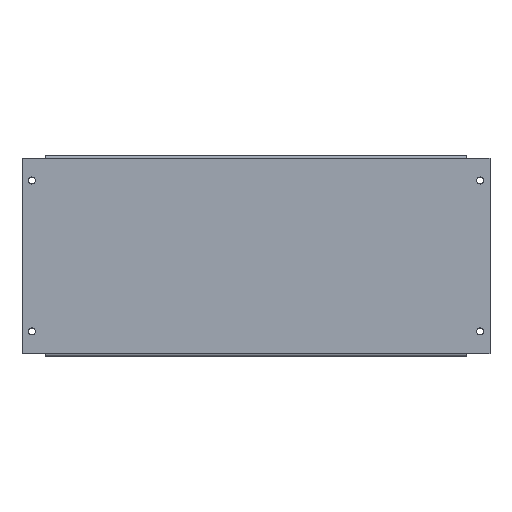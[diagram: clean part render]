
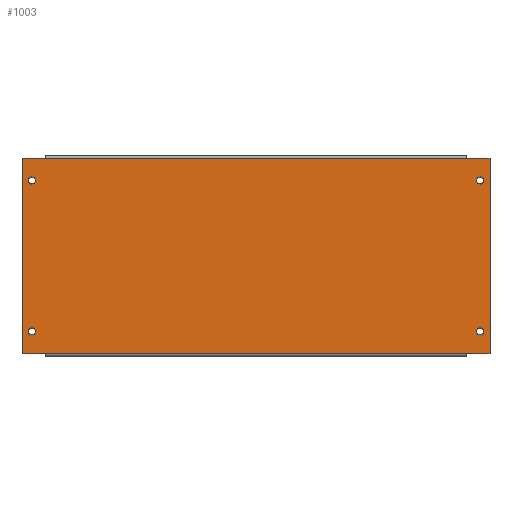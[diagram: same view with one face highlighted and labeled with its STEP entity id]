
A CAD part, top view. The second image highlights one B-rep face of the part: STEP entity #1003.
In plain terms, the highlighted planar face has unit normal (0, 0, 1).
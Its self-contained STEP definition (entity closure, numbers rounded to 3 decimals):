
#78 = DIRECTION ( 'NONE',  ( 1., 0., 0. ) ) ;
#79 = DIRECTION ( 'NONE',  ( 0., 0., 1. ) ) ;
#83 = CARTESIAN_POINT ( 'NONE',  ( -222.75, 75., 1.2 ) ) ;
#103 = DIRECTION ( 'NONE',  ( -1., 0., 0. ) ) ;
#104 = CARTESIAN_POINT ( 'NONE',  ( -232.5, 97.1, 1.2 ) ) ;
#105 = LINE ( 'NONE', #104, #455 ) ;
#107 = DIRECTION ( 'NONE',  ( 0., -1., 0. ) ) ;
#108 = CARTESIAN_POINT ( 'NONE',  ( -232.5, 99.5, 1.2 ) ) ;
#109 = LINE ( 'NONE', #108, #456 ) ;
#135 = DIRECTION ( 'NONE',  ( 1., 0., 0. ) ) ;
#136 = DIRECTION ( 'NONE',  ( 0., 0., -1. ) ) ;
#146 = CARTESIAN_POINT ( 'NONE',  ( -222.75, -75., 1.2 ) ) ;
#160 = DIRECTION ( 'NONE',  ( 1., 0., 0. ) ) ;
#161 = DIRECTION ( 'NONE',  ( 0., 0., 1. ) ) ;
#162 = CARTESIAN_POINT ( 'NONE',  ( -232.5, -99.5, 1.2 ) ) ;
#163 = PLANE ( 'NONE',  #804 ) ;
#187 = DIRECTION ( 'NONE',  ( -1., 0., 0. ) ) ;
#188 = CARTESIAN_POINT ( 'NONE',  ( -232.5, 97.1, 1.2 ) ) ;
#189 = LINE ( 'NONE', #188, #803 ) ;
#198 = DIRECTION ( 'NONE',  ( 1., 0., 0. ) ) ;
#199 = DIRECTION ( 'NONE',  ( 0., 0., -1. ) ) ;
#206 = CARTESIAN_POINT ( 'NONE',  ( 222.75, 75., 1.2 ) ) ;
#207 = DIRECTION ( 'NONE',  ( 1., 0., 0. ) ) ;
#208 = DIRECTION ( 'NONE',  ( 0., 0., 1. ) ) ;
#209 = CARTESIAN_POINT ( 'NONE',  ( 222.75, -75., 1.2 ) ) ;
#223 = DIRECTION ( 'NONE',  ( 1., 0., 0. ) ) ;
#224 = DIRECTION ( 'NONE',  ( 0., 0., -1. ) ) ;
#225 = CARTESIAN_POINT ( 'NONE',  ( -222.75, -75., 1.2 ) ) ;
#274 = DIRECTION ( 'NONE',  ( 1., 0., 0. ) ) ;
#275 = DIRECTION ( 'NONE',  ( 0., 0., 1. ) ) ;
#285 = DIRECTION ( 'NONE',  ( 1., 0., 0. ) ) ;
#286 = CARTESIAN_POINT ( 'NONE',  ( -209.5, -97.1, 1.2 ) ) ;
#287 = LINE ( 'NONE', #286, #863 ) ;
#288 = CARTESIAN_POINT ( 'NONE',  ( 222.75, -75., 1.2 ) ) ;
#296 = DIRECTION ( 'NONE',  ( 1., 0., 0. ) ) ;
#297 = DIRECTION ( 'NONE',  ( 0., 0., 1. ) ) ;
#301 = CARTESIAN_POINT ( 'NONE',  ( -222.75, 75., 1.2 ) ) ;
#320 = DIRECTION ( 'NONE',  ( -1., 0., 0. ) ) ;
#321 = CARTESIAN_POINT ( 'NONE',  ( 209.5, 97.1, 1.2 ) ) ;
#322 = LINE ( 'NONE', #321, #878 ) ;
#333 = DIRECTION ( 'NONE',  ( 1., 0., 0. ) ) ;
#334 = DIRECTION ( 'NONE',  ( 0., 0., -1. ) ) ;
#335 = CARTESIAN_POINT ( 'NONE',  ( 222.75, 75., 1.2 ) ) ;
#336 = DIRECTION ( 'NONE',  ( 1., 0., 0. ) ) ;
#337 = CARTESIAN_POINT ( 'NONE',  ( -232.5, -97.1, 1.2 ) ) ;
#338 = LINE ( 'NONE', #337, #785 ) ;
#355 = DIRECTION ( 'NONE',  ( 1., 0., 0. ) ) ;
#356 = CARTESIAN_POINT ( 'NONE',  ( -232.5, -97.1, 1.2 ) ) ;
#357 = LINE ( 'NONE', #356, #786 ) ;
#358 = DIRECTION ( 'NONE',  ( 0., 1., 0. ) ) ;
#359 = CARTESIAN_POINT ( 'NONE',  ( 232.5, 99.5, 1.2 ) ) ;
#360 = LINE ( 'NONE', #359, #781 ) ;
#396 = CARTESIAN_POINT ( 'NONE',  ( -226.25, -75., 1.2 ) ) ;
#397 = CARTESIAN_POINT ( 'NONE',  ( -219.25, -75., 1.2 ) ) ;
#398 = CARTESIAN_POINT ( 'NONE',  ( 219.25, -75., 1.2 ) ) ;
#399 = CARTESIAN_POINT ( 'NONE',  ( 226.25, -75., 1.2 ) ) ;
#403 = CARTESIAN_POINT ( 'NONE',  ( 219.25, 75., 1.2 ) ) ;
#404 = CARTESIAN_POINT ( 'NONE',  ( 226.25, 75., 1.2 ) ) ;
#407 = CARTESIAN_POINT ( 'NONE',  ( -226.25, 75., 1.2 ) ) ;
#408 = CARTESIAN_POINT ( 'NONE',  ( -219.25, 75., 1.2 ) ) ;
#409 = CARTESIAN_POINT ( 'NONE',  ( -232.5, 97.1, 1.2 ) ) ;
#410 = CARTESIAN_POINT ( 'NONE',  ( -232.5, -97.1, 1.2 ) ) ;
#411 = CARTESIAN_POINT ( 'NONE',  ( -209.5, -97.1, 1.2 ) ) ;
#412 = CARTESIAN_POINT ( 'NONE',  ( 209.5, -97.1, 1.2 ) ) ;
#413 = CARTESIAN_POINT ( 'NONE',  ( 232.5, -97.1, 1.2 ) ) ;
#414 = CARTESIAN_POINT ( 'NONE',  ( 232.5, 97.1, 1.2 ) ) ;
#415 = CARTESIAN_POINT ( 'NONE',  ( 209.5, 97.1, 1.2 ) ) ;
#444 = AXIS2_PLACEMENT_3D ( 'NONE', #83, #79, #78 ) ;
#455 = VECTOR ( 'NONE', #103, 1000. ) ;
#456 = VECTOR ( 'NONE', #107, 1000. ) ;
#495 = CARTESIAN_POINT ( 'NONE',  ( -209.5, 97.1, 1.2 ) ) ;
#552 = VERTEX_POINT ( 'NONE', #495 ) ;
#554 = VERTEX_POINT ( 'NONE', #415 ) ;
#556 = VERTEX_POINT ( 'NONE', #414 ) ;
#557 = VERTEX_POINT ( 'NONE', #413 ) ;
#560 = VERTEX_POINT ( 'NONE', #412 ) ;
#561 = VERTEX_POINT ( 'NONE', #411 ) ;
#562 = VERTEX_POINT ( 'NONE', #410 ) ;
#563 = VERTEX_POINT ( 'NONE', #409 ) ;
#564 = VERTEX_POINT ( 'NONE', #408 ) ;
#565 = VERTEX_POINT ( 'NONE', #407 ) ;
#569 = VERTEX_POINT ( 'NONE', #404 ) ;
#570 = VERTEX_POINT ( 'NONE', #403 ) ;
#574 = VERTEX_POINT ( 'NONE', #399 ) ;
#575 = VERTEX_POINT ( 'NONE', #398 ) ;
#576 = VERTEX_POINT ( 'NONE', #397 ) ;
#577 = VERTEX_POINT ( 'NONE', #396 ) ;
#587 = EDGE_LOOP ( 'NONE', ( #620, #643, #642, #644, #646, #647, #648, #649 ) ) ;
#590 = EDGE_LOOP ( 'NONE', ( #684, #651 ) ) ;
#606 = ORIENTED_EDGE ( 'NONE', *, *, #982, .F. ) ;
#607 = EDGE_LOOP ( 'NONE', ( #639, #640 ) ) ;
#609 = EDGE_LOOP ( 'NONE', ( #615, #637 ) ) ;
#610 = EDGE_LOOP ( 'NONE', ( #606, #631 ) ) ;
#615 = ORIENTED_EDGE ( 'NONE', *, *, #936, .T. ) ;
#620 = ORIENTED_EDGE ( 'NONE', *, *, #1022, .T. ) ;
#631 = ORIENTED_EDGE ( 'NONE', *, *, #959, .F. ) ;
#637 = ORIENTED_EDGE ( 'NONE', *, *, #985, .T. ) ;
#639 = ORIENTED_EDGE ( 'NONE', *, *, #952, .F. ) ;
#640 = ORIENTED_EDGE ( 'NONE', *, *, #1031, .F. ) ;
#642 = ORIENTED_EDGE ( 'NONE', *, *, #955, .T. ) ;
#643 = ORIENTED_EDGE ( 'NONE', *, *, #928, .T. ) ;
#644 = ORIENTED_EDGE ( 'NONE', *, *, #934, .T. ) ;
#646 = ORIENTED_EDGE ( 'NONE', *, *, #926, .T. ) ;
#647 = ORIENTED_EDGE ( 'NONE', *, *, #989, .T. ) ;
#648 = ORIENTED_EDGE ( 'NONE', *, *, #940, .T. ) ;
#649 = ORIENTED_EDGE ( 'NONE', *, *, #1023, .T. ) ;
#651 = ORIENTED_EDGE ( 'NONE', *, *, #1011, .T. ) ;
#684 = ORIENTED_EDGE ( 'NONE', *, *, #977, .T. ) ;
#781 = VECTOR ( 'NONE', #358, 1000. ) ;
#785 = VECTOR ( 'NONE', #336, 1000. ) ;
#786 = VECTOR ( 'NONE', #355, 1000. ) ;
#789 = AXIS2_PLACEMENT_3D ( 'NONE', #335, #334, #333 ) ;
#795 = AXIS2_PLACEMENT_3D ( 'NONE', #206, #199, #198 ) ;
#803 = VECTOR ( 'NONE', #187, 1000. ) ;
#804 = AXIS2_PLACEMENT_3D ( 'NONE', #162, #161, #160 ) ;
#810 = FACE_BOUND ( 'NONE', #610, .T. ) ;
#811 = FACE_BOUND ( 'NONE', #609, .T. ) ;
#813 = FACE_BOUND ( 'NONE', #607, .T. ) ;
#814 = FACE_OUTER_BOUND ( 'NONE', #587, .T. ) ;
#815 = AXIS2_PLACEMENT_3D ( 'NONE', #209, #208, #207 ) ;
#816 = FACE_BOUND ( 'NONE', #590, .T. ) ;
#836 = AXIS2_PLACEMENT_3D ( 'NONE', #146, #136, #135 ) ;
#854 = AXIS2_PLACEMENT_3D ( 'NONE', #225, #224, #223 ) ;
#860 = AXIS2_PLACEMENT_3D ( 'NONE', #288, #275, #274 ) ;
#863 = VECTOR ( 'NONE', #285, 1000. ) ;
#867 = AXIS2_PLACEMENT_3D ( 'NONE', #301, #297, #296 ) ;
#878 = VECTOR ( 'NONE', #320, 1000. ) ;
#914 = CIRCLE ( 'NONE', #854, 3.5 ) ;
#915 = CIRCLE ( 'NONE', #815, 3.5 ) ;
#916 = CIRCLE ( 'NONE', #795, 3.5 ) ;
#926 = EDGE_CURVE ( 'NONE', #557, #556, #360, .T. ) ;
#927 = CIRCLE ( 'NONE', #789, 3.5 ) ;
#928 = EDGE_CURVE ( 'NONE', #562, #561, #357, .T. ) ;
#934 = EDGE_CURVE ( 'NONE', #560, #557, #338, .T. ) ;
#936 = EDGE_CURVE ( 'NONE', #569, #570, #927, .T. ) ;
#940 = EDGE_CURVE ( 'NONE', #554, #552, #322, .T. ) ;
#947 = CIRCLE ( 'NONE', #867, 3.5 ) ;
#952 = EDGE_CURVE ( 'NONE', #564, #565, #947, .T. ) ;
#955 = EDGE_CURVE ( 'NONE', #561, #560, #287, .T. ) ;
#959 = EDGE_CURVE ( 'NONE', #575, #574, #995, .T. ) ;
#977 = EDGE_CURVE ( 'NONE', #576, #577, #914, .T. ) ;
#982 = EDGE_CURVE ( 'NONE', #574, #575, #915, .T. ) ;
#985 = EDGE_CURVE ( 'NONE', #570, #569, #916, .T. ) ;
#989 = EDGE_CURVE ( 'NONE', #556, #554, #189, .T. ) ;
#995 = CIRCLE ( 'NONE', #860, 3.5 ) ;
#1003 = ADVANCED_FACE ( 'NONE', ( #810, #811, #813, #814, #816 ), #163, .T. ) ;
#1011 = EDGE_CURVE ( 'NONE', #577, #576, #1037, .T. ) ;
#1012 = CIRCLE ( 'NONE', #444, 3.5 ) ;
#1022 = EDGE_CURVE ( 'NONE', #563, #562, #109, .T. ) ;
#1023 = EDGE_CURVE ( 'NONE', #552, #563, #105, .T. ) ;
#1031 = EDGE_CURVE ( 'NONE', #565, #564, #1012, .T. ) ;
#1037 = CIRCLE ( 'NONE', #836, 3.5 ) ;
